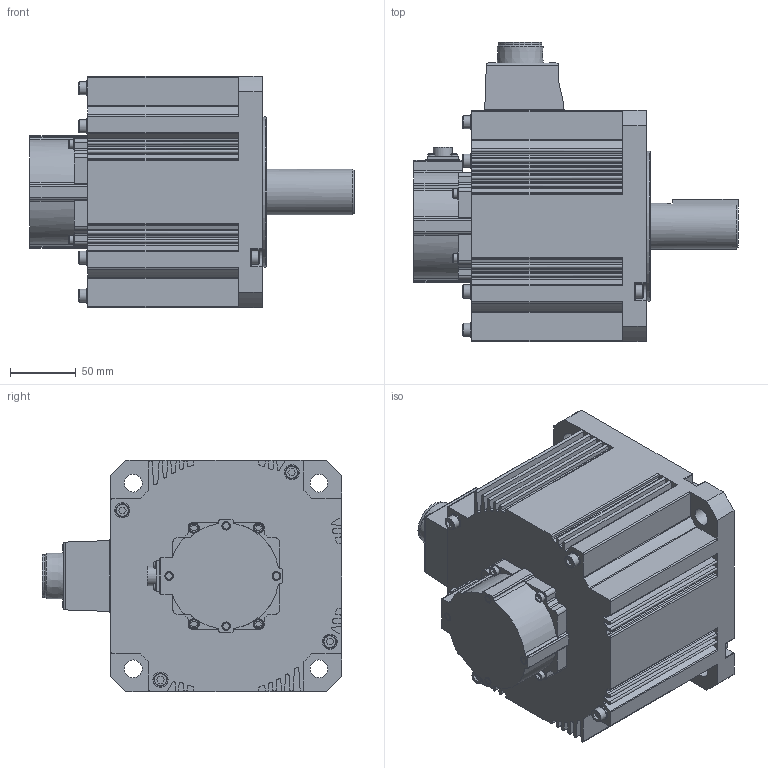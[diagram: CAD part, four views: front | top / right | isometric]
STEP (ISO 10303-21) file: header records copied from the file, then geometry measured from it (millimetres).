
FILE_DESCRIPTION( ( 'STEP AP0' ), '1' );
FILE_NAME( '//expscmdclustefs.cadenas.external/client_exchange/iodir/jobs/output/wkb64903685_no0/STEP/MDME404G1G_2_03.stp', ' ', ( ' ' ), ( ' ' ), 'PSStep 15.0.47', 'PARTsolutions', ' ' );
FILE_SCHEMA( ( 'CONFIG_CONTROL_DESIGN' ) );
Length unit declared in the file: millimetre
Products named in the file (1): HI_MDME404G1G
Bounding box: 247 x 228 x 176 mm (x, y, z)
Volume: 4103009.1 mm3; surface area: 226224 mm2
Topology: 1 solids, 1 shells, 595 faces, 1560 edges, 1019 vertices
Faces by surface type: plane 313, cylinder 235, cone 22, torus 13, sphere 8, bspline 4
Full cylindrical faces by diameter (mm): 2.459 x1, 5.5 x4, 6.5 x4, 7 x4, 10 x8, 11.5 x8, 13.5 x4, 14.8 x1, 32.9 x1, 35 x1, 52 x1, 58 x1, 67 x1, 105 x1, 114.3 x1
Entity records: 18178 total; most frequent: CARTESIAN_POINT 3451, DIRECTION 3146, ORIENTED_EDGE 2916, EDGE_CURVE 1458, AXIS2_PLACEMENT_3D 1131, VERTEX_POINT 1008, LINE 884, VECTOR 884
